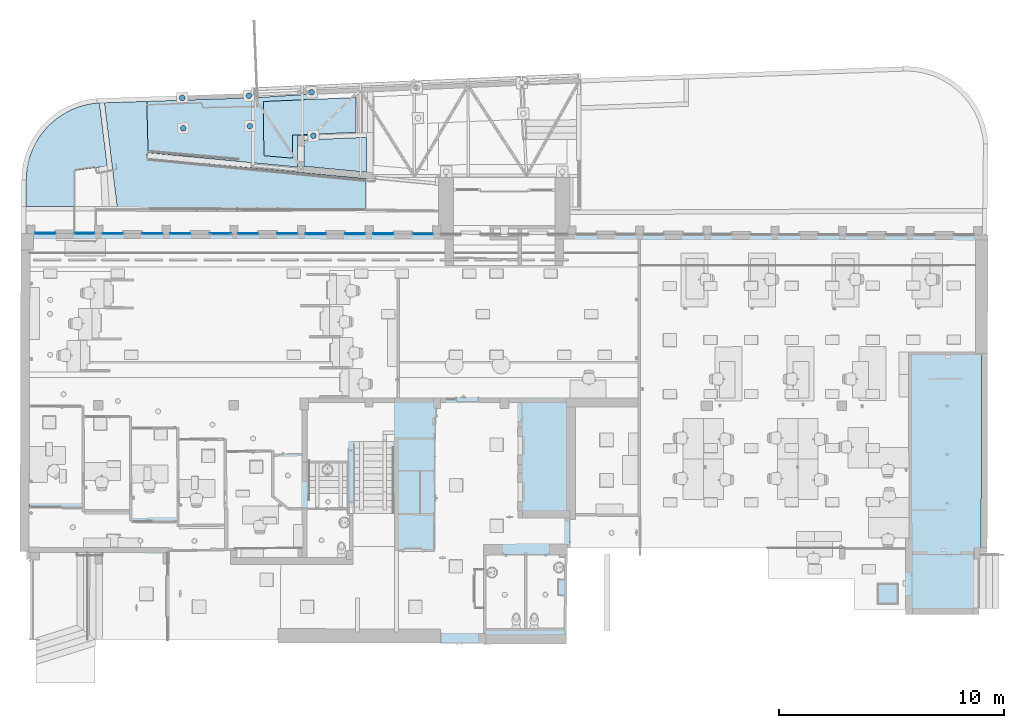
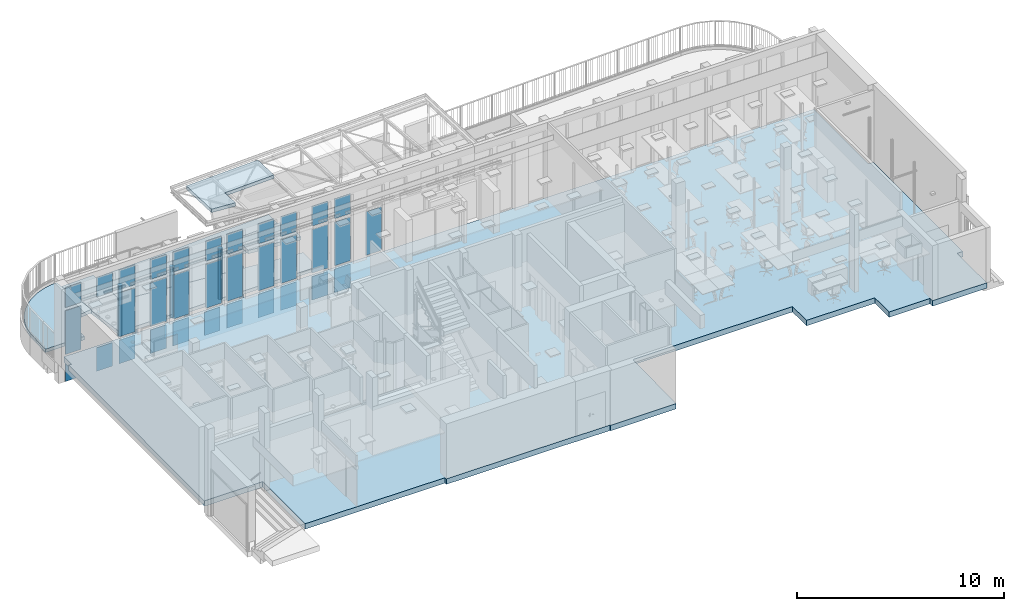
# One storey, part 22 of 128: 33 plates, 12 slabs, 23 elements without a shape of their own.
"""IFC2X3 building model written with IfcOpenShell, lengths in metres."""

from ifc_helpers import new_model, entity, si_unit, converted_unit, derived_unit, direction, frame, frame_2d, origin, origin_2d_with_axis, place, context, subcontext, project, spatial, polyline, circle_curve, parameter, trimmed, segment, composite_curve, rectangle, circle, outline, extrude, clip, halfspace, source, transform, mapped, material, layer, layer_set, layer_usage, type_object, type_shapes, element, aggregate, save


model = new_model("IFC2X3")

# Units and contexts
model_context = context("Model", 3, precision=1e-05, world=origin(), true_north=direction((6.123031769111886e-17, 1.0)))
body_context = subcontext(model_context, "Body", "Model", "MODEL_VIEW")
ifc_project = project(units=[si_unit("LENGTHUNIT", "METRE"), si_unit("AREAUNIT", "SQUARE_METRE"), converted_unit("PLANEANGLEUNIT", "DEGREE", entity("IfcPlaneAngleMeasure", 0.017453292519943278), si_unit("PLANEANGLEUNIT", "RADIAN"), dimensions=[0, 0, 0, 0, 0, 0, 0]), derived_unit("THERMALTRANSMITTANCEUNIT", [(si_unit("MASSUNIT", "GRAM", prefix="KILO"), 1), (si_unit("THERMODYNAMICTEMPERATUREUNIT", "KELVIN"), -1), (si_unit("TIMEUNIT", "SECOND"), -3)])], contexts=[model_context])

# Site, building, storey
site_placement = place(None, origin())
site = spatial("IfcSite", under=ifc_project, at=site_placement, Name="Default", CompositionType="ELEMENT")
building_placement = place(site_placement, origin())
building = spatial("IfcBuilding", under=site, at=building_placement, CompositionType="ELEMENT")
storey_placement = place(building_placement, origin())
storey = spatial("IfcBuildingStorey", under=building, at=storey_placement, Name="00_RDC CAF", CompositionType="ELEMENT", Elevation=2.4982504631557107e-13)

# Curtain wall, plate
curtain_wall_type_1 = type_object("IfcCurtainWallType", Name="Mur-rideau:FRi.Ext.30mm RDC", PredefinedType="NOTDEFINED")
curtain_wall_1_placement = place(storey_placement, origin())
curtain_wall_1 = element("IfcCurtainWall", 1, at=curtain_wall_1_placement, inside=storey, type_object=curtain_wall_type_1, Name="Mur-rideau:FRi.Ext.30mm RDC", ObjectType="Mur-rideau:FRi.Ext.30mm RDC")
ifc_material_1 = material(Name="ARC - M.Ex - Verre")
plate_type_1 = type_object("IfcPlateType", Name="Panneau système:F.Ri.P_Ext_Vitre_30mm", PredefinedType="CURTAIN_PANEL", material=ifc_material_1)
shared_shape_1 = source(origin(), body_context, "Body", "SweptSolid", [
    extrude(rectangle(XDim=0.03, YDim=0.879999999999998, at=frame_2d((0.0, 1.942890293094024e-16), x_axis=(1.0, 0.0))), frame((0.0, 0.0, 0.0), z_axis=(0.0, 0.0, 1.0), x_axis=(0.0, 1.0, 0.0)), (0.0, 0.0, 1.0), 2.578999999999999),
])
type_shapes(plate_type_1, [shared_shape_1])
plate_1_placement = place(curtain_wall_1_placement, frame((10.375999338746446, 144.17785554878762, 0.08999999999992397)))
plate_1 = element("IfcPlate", 2, at=plate_1_placement, type_object=plate_type_1, material=ifc_material_1, Name="Panneau système:F.Ri.P_Ext_Vitre_30mm", ObjectType="Panneau système:F.Ri.P_Ext_Vitre_30mm", context=body_context, shape_type="MappedRepresentation", body=[
    mapped(shared_shape_1, transform((0.0, 0.0, 0.0), scale=1.0)),
])

curtain_wall_2_placement = place(storey_placement, origin())
curtain_wall_2 = element("IfcCurtainWall", 3, at=curtain_wall_2_placement, inside=storey, type_object=curtain_wall_type_1, Name="Mur-rideau:FRi.Ext.30mm RDC", ObjectType="Mur-rideau:FRi.Ext.30mm RDC")
plate_2_placement = place(curtain_wall_2_placement, frame((7.376046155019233, 144.18257356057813, 0.08999999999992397)))
plate_2 = element("IfcPlate", 4, at=plate_2_placement, type_object=plate_type_1, material=ifc_material_1, Name="Panneau système:F.Ri.P_Ext_Vitre_30mm", ObjectType="Panneau système:F.Ri.P_Ext_Vitre_30mm", context=body_context, shape_type="MappedRepresentation", body=[
    mapped(shared_shape_1, transform((0.0, 0.0, 0.0), scale=1.0)),
])

curtain_wall_3_placement = place(storey_placement, origin())
curtain_wall_3 = element("IfcCurtainWall", 5, at=curtain_wall_3_placement, inside=storey, type_object=curtain_wall_type_1, Name="Mur-rideau:FRi.Ext.30mm RDC", ObjectType="Mur-rideau:FRi.Ext.30mm RDC")
plate_3_placement = place(curtain_wall_3_placement, frame((12.122371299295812, 144.17510903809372, 0.08999999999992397)))
plate_3 = element("IfcPlate", 6, at=plate_3_placement, type_object=plate_type_1, material=ifc_material_1, Name="Panneau système:F.Ri.P_Ext_Vitre_30mm", ObjectType="Panneau système:F.Ri.P_Ext_Vitre_30mm", context=body_context, shape_type="MappedRepresentation", body=[
    mapped(shared_shape_1, transform((0.0, 0.0, 0.0), scale=1.0)),
])

curtain_wall_4_placement = place(storey_placement, origin())
curtain_wall_4 = element("IfcCurtainWall", 7, at=curtain_wall_4_placement, inside=storey, type_object=curtain_wall_type_1, Name="Mur-rideau:FRi.Ext.30mm RDC", ObjectType="Mur-rideau:FRi.Ext.30mm RDC")
plate_4_placement = place(curtain_wall_4_placement, frame((13.376032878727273, 144.17313741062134, 0.08999999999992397)))
plate_4 = element("IfcPlate", 8, at=plate_4_placement, type_object=plate_type_1, material=ifc_material_1, Name="Panneau système:F.Ri.P_Ext_Vitre_30mm", ObjectType="Panneau système:F.Ri.P_Ext_Vitre_30mm", context=body_context, shape_type="MappedRepresentation", body=[
    mapped(shared_shape_1, transform((0.0, 0.0, 0.0), scale=1.0)),
])

curtain_wall_5_placement = place(storey_placement, origin())
curtain_wall_5 = element("IfcCurtainWall", 9, at=curtain_wall_5_placement, inside=storey, type_object=curtain_wall_type_1, Name="Mur-rideau:FRi.Ext.30mm RDC", ObjectType="Mur-rideau:FRi.Ext.30mm RDC")
plate_5_placement = place(curtain_wall_5_placement, frame((15.197702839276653, 144.17039089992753, 0.08999999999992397)))
plate_5 = element("IfcPlate", 10, at=plate_5_placement, type_object=plate_type_1, material=ifc_material_1, Name="Panneau système:F.Ri.P_Ext_Vitre_30mm", ObjectType="Panneau système:F.Ri.P_Ext_Vitre_30mm", context=body_context, shape_type="MappedRepresentation", body=[
    mapped(shared_shape_1, transform((0.0, 0.0, 0.0), scale=1.0)),
])

curtain_wall_6_placement = place(storey_placement, origin())
curtain_wall_6 = element("IfcCurtainWall", 11, at=curtain_wall_6_placement, inside=storey, type_object=curtain_wall_type_1, Name="Mur-rideau:FRi.Ext.30mm RDC", ObjectType="Mur-rideau:FRi.Ext.30mm RDC")
plate_6_placement = place(curtain_wall_6_placement, frame((16.376026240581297, 144.16841933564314, 0.08999999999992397)))
plate_6 = element("IfcPlate", 12, at=plate_6_placement, type_object=plate_type_1, material=ifc_material_1, Name="Panneau système:F.Ri.P_Ext_Vitre_30mm", ObjectType="Panneau système:F.Ri.P_Ext_Vitre_30mm", context=body_context, shape_type="MappedRepresentation", body=[
    mapped(shared_shape_1, transform((0.0, 0.0, 0.0), scale=1.0)),
])

curtain_wall_7_placement = place(storey_placement, origin())
curtain_wall_7 = element("IfcCurtainWall", 13, at=curtain_wall_7_placement, inside=storey, type_object=curtain_wall_type_1, Name="Mur-rideau:FRi.Ext.30mm RDC", ObjectType="Mur-rideau:FRi.Ext.30mm RDC")
plate_7_placement = place(curtain_wall_7_placement, frame((18.122398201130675, 144.16567282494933, 0.08999999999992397)))
plate_7 = element("IfcPlate", 14, at=plate_7_placement, type_object=plate_type_1, material=ifc_material_1, Name="Panneau système:F.Ri.P_Ext_Vitre_30mm", ObjectType="Panneau système:F.Ri.P_Ext_Vitre_30mm", context=body_context, shape_type="MappedRepresentation", body=[
    mapped(shared_shape_1, transform((0.0, 0.0, 0.0), scale=1.0)),
])

curtain_wall_8_placement = place(storey_placement, origin())
curtain_wall_8 = element("IfcCurtainWall", 15, at=curtain_wall_8_placement, inside=storey, type_object=curtain_wall_type_1, Name="Mur-rideau:FRi.Ext.30mm RDC", ObjectType="Mur-rideau:FRi.Ext.30mm RDC")
plate_8_placement = place(curtain_wall_8_placement, frame((19.37601960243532, 144.16370126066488, 0.08999999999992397)))
plate_8 = element("IfcPlate", 16, at=plate_8_placement, type_object=plate_type_1, material=ifc_material_1, Name="Panneau système:F.Ri.P_Ext_Vitre_30mm", ObjectType="Panneau système:F.Ri.P_Ext_Vitre_30mm", context=body_context, shape_type="MappedRepresentation", body=[
    mapped(shared_shape_1, transform((0.0, 0.0, 0.0), scale=1.0)),
])

curtain_wall_9_placement = place(storey_placement, origin())
curtain_wall_9 = element("IfcCurtainWall", 17, at=curtain_wall_9_placement, inside=storey, type_object=curtain_wall_type_1, Name="Mur-rideau:FRi.Ext.30mm RDC", ObjectType="Mur-rideau:FRi.Ext.30mm RDC")
plate_9_placement = place(curtain_wall_9_placement, frame((21.122391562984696, 144.16095474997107, 0.08999999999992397)))
plate_9 = element("IfcPlate", 18, at=plate_9_placement, type_object=plate_type_1, material=ifc_material_1, Name="Panneau système:F.Ri.P_Ext_Vitre_30mm", ObjectType="Panneau système:F.Ri.P_Ext_Vitre_30mm", context=body_context, shape_type="MappedRepresentation", body=[
    mapped(shared_shape_1, transform((0.0, 0.0, 0.0), scale=1.0)),
])

curtain_wall_10_placement = place(storey_placement, origin())
curtain_wall_10 = element("IfcCurtainWall", 19, at=curtain_wall_10_placement, inside=storey, type_object=curtain_wall_type_1, Name="Mur-rideau:FRi.Ext.30mm RDC", ObjectType="Mur-rideau:FRi.Ext.30mm RDC")
plate_10_placement = place(curtain_wall_10_placement, frame((22.376012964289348, 144.15898318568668, 0.08999999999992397)))
plate_10 = element("IfcPlate", 20, at=plate_10_placement, type_object=plate_type_1, material=ifc_material_1, Name="Panneau système:F.Ri.P_Ext_Vitre_30mm", ObjectType="Panneau système:F.Ri.P_Ext_Vitre_30mm", context=body_context, shape_type="MappedRepresentation", body=[
    mapped(shared_shape_1, transform((0.0, 0.0, 0.0), scale=1.0)),
])

curtain_wall_11_placement = place(storey_placement, origin())
curtain_wall_11 = element("IfcCurtainWall", 21, at=curtain_wall_11_placement, inside=storey, type_object=curtain_wall_type_1, Name="Mur-rideau:FRi.Ext.30mm RDC", ObjectType="Mur-rideau:FRi.Ext.30mm RDC")
plate_11_placement = place(curtain_wall_11_placement, frame((24.12238492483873, 144.15623667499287, 0.08999999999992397)))
plate_11 = element("IfcPlate", 22, at=plate_11_placement, type_object=plate_type_1, material=ifc_material_1, Name="Panneau système:F.Ri.P_Ext_Vitre_30mm", ObjectType="Panneau système:F.Ri.P_Ext_Vitre_30mm", context=body_context, shape_type="MappedRepresentation", body=[
    mapped(shared_shape_1, transform((0.0, 0.0, 0.0), scale=1.0)),
])
aggregate(curtain_wall_11, [plate_11])

# Plate
plate_type_2 = type_object("IfcPlateType", Name="Panneau système:F.Ri.P_Ext_Vitre_30mm", PredefinedType="CURTAIN_PANEL", material=ifc_material_1)
shared_shape_2 = source(origin(), body_context, "Body", "SweptSolid", [
    extrude(rectangle(XDim=0.03, YDim=0.879999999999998, at=frame_2d((0.0, 1.942890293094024e-16), x_axis=(1.0, 0.0))), frame((0.0, 0.0, 0.0), z_axis=(0.0, 0.0, 1.0), x_axis=(0.0, 1.0, 0.0)), (0.0, 0.0, 1.0), 1.1689999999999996),
])
type_shapes(plate_type_2, [shared_shape_2])
plate_12_placement = place(curtain_wall_1_placement, frame((10.375999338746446, 144.17785554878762, 2.8689999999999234)))
plate_12 = element("IfcPlate", 23, at=plate_12_placement, type_object=plate_type_2, material=ifc_material_1, Name="Panneau système:F.Ri.P_Ext_Vitre_30mm", ObjectType="Panneau système:F.Ri.P_Ext_Vitre_30mm", context=body_context, shape_type="MappedRepresentation", body=[
    mapped(shared_shape_2, transform((0.0, 0.0, 0.0), scale=1.0)),
])

aggregate(curtain_wall_1, [plate_1, plate_12])

# Curtain wall, plate
curtain_wall_12_placement = place(storey_placement, origin())
curtain_wall_12 = element("IfcCurtainWall", 24, at=curtain_wall_12_placement, inside=storey, type_object=curtain_wall_type_1, Name="Mur-rideau:FRi.Ext.30mm RDC", ObjectType="Mur-rideau:FRi.Ext.30mm RDC")
plate_13_placement = place(curtain_wall_12_placement, frame((9.122418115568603, 144.17982704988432, 2.8689999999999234)))
plate_13 = element("IfcPlate", 25, at=plate_13_placement, type_object=plate_type_2, material=ifc_material_1, Name="Panneau système:F.Ri.P_Ext_Vitre_30mm", ObjectType="Panneau système:F.Ri.P_Ext_Vitre_30mm", context=body_context, shape_type="MappedRepresentation", body=[
    mapped(shared_shape_2, transform((0.0, 0.0, 0.0), scale=1.0)),
])
aggregate(curtain_wall_12, [plate_13])

# Plate
plate_14_placement = place(curtain_wall_2_placement, frame((7.376046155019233, 144.18257356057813, 2.8689999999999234)))
plate_14 = element("IfcPlate", 26, at=plate_14_placement, type_object=plate_type_2, material=ifc_material_1, Name="Panneau système:F.Ri.P_Ext_Vitre_30mm", ObjectType="Panneau système:F.Ri.P_Ext_Vitre_30mm", context=body_context, shape_type="MappedRepresentation", body=[
    mapped(shared_shape_2, transform((0.0, 0.0, 0.0), scale=1.0)),
])

aggregate(curtain_wall_2, [plate_2, plate_14])

plate_15_placement = place(curtain_wall_3_placement, frame((12.122371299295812, 144.17510903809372, 2.8689999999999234)))
plate_15 = element("IfcPlate", 27, at=plate_15_placement, type_object=plate_type_2, material=ifc_material_1, Name="Panneau système:F.Ri.P_Ext_Vitre_30mm", ObjectType="Panneau système:F.Ri.P_Ext_Vitre_30mm", context=body_context, shape_type="MappedRepresentation", body=[
    mapped(shared_shape_2, transform((0.0, 0.0, 0.0), scale=1.0)),
])

aggregate(curtain_wall_3, [plate_3, plate_15])

plate_16_placement = place(curtain_wall_4_placement, frame((13.376032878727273, 144.17313741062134, 2.8689999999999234)))
plate_16 = element("IfcPlate", 28, at=plate_16_placement, type_object=plate_type_2, material=ifc_material_1, Name="Panneau système:F.Ri.P_Ext_Vitre_30mm", ObjectType="Panneau système:F.Ri.P_Ext_Vitre_30mm", context=body_context, shape_type="MappedRepresentation", body=[
    mapped(shared_shape_2, transform((0.0, 0.0, 0.0), scale=1.0)),
])

aggregate(curtain_wall_4, [plate_4, plate_16])

plate_17_placement = place(curtain_wall_5_placement, frame((15.197702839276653, 144.17039089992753, 2.8689999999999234)))
plate_17 = element("IfcPlate", 29, at=plate_17_placement, type_object=plate_type_2, material=ifc_material_1, Name="Panneau système:F.Ri.P_Ext_Vitre_30mm", ObjectType="Panneau système:F.Ri.P_Ext_Vitre_30mm", context=body_context, shape_type="MappedRepresentation", body=[
    mapped(shared_shape_2, transform((0.0, 0.0, 0.0), scale=1.0)),
])

aggregate(curtain_wall_5, [plate_5, plate_17])

plate_18_placement = place(curtain_wall_6_placement, frame((16.376026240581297, 144.16841933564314, 2.8689999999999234)))
plate_18 = element("IfcPlate", 30, at=plate_18_placement, type_object=plate_type_2, material=ifc_material_1, Name="Panneau système:F.Ri.P_Ext_Vitre_30mm", ObjectType="Panneau système:F.Ri.P_Ext_Vitre_30mm", context=body_context, shape_type="MappedRepresentation", body=[
    mapped(shared_shape_2, transform((0.0, 0.0, 0.0), scale=1.0)),
])

aggregate(curtain_wall_6, [plate_6, plate_18])

plate_19_placement = place(curtain_wall_7_placement, frame((18.122398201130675, 144.16567282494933, 2.8689999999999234)))
plate_19 = element("IfcPlate", 31, at=plate_19_placement, type_object=plate_type_2, material=ifc_material_1, Name="Panneau système:F.Ri.P_Ext_Vitre_30mm", ObjectType="Panneau système:F.Ri.P_Ext_Vitre_30mm", context=body_context, shape_type="MappedRepresentation", body=[
    mapped(shared_shape_2, transform((0.0, 0.0, 0.0), scale=1.0)),
])

aggregate(curtain_wall_7, [plate_7, plate_19])

plate_20_placement = place(curtain_wall_8_placement, frame((19.37601960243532, 144.16370126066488, 2.8689999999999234)))
plate_20 = element("IfcPlate", 32, at=plate_20_placement, type_object=plate_type_2, material=ifc_material_1, Name="Panneau système:F.Ri.P_Ext_Vitre_30mm", ObjectType="Panneau système:F.Ri.P_Ext_Vitre_30mm", context=body_context, shape_type="MappedRepresentation", body=[
    mapped(shared_shape_2, transform((0.0, 0.0, 0.0), scale=1.0)),
])

aggregate(curtain_wall_8, [plate_8, plate_20])

plate_21_placement = place(curtain_wall_9_placement, frame((21.122391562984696, 144.16095474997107, 2.8689999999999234)))
plate_21 = element("IfcPlate", 33, at=plate_21_placement, type_object=plate_type_2, material=ifc_material_1, Name="Panneau système:F.Ri.P_Ext_Vitre_30mm", ObjectType="Panneau système:F.Ri.P_Ext_Vitre_30mm", context=body_context, shape_type="MappedRepresentation", body=[
    mapped(shared_shape_2, transform((0.0, 0.0, 0.0), scale=1.0)),
])

aggregate(curtain_wall_9, [plate_9, plate_21])

plate_22_placement = place(curtain_wall_10_placement, frame((22.376012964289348, 144.15898318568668, 2.8689999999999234)))
plate_22 = element("IfcPlate", 34, at=plate_22_placement, type_object=plate_type_2, material=ifc_material_1, Name="Panneau système:F.Ri.P_Ext_Vitre_30mm", ObjectType="Panneau système:F.Ri.P_Ext_Vitre_30mm", context=body_context, shape_type="MappedRepresentation", body=[
    mapped(shared_shape_2, transform((0.0, 0.0, 0.0), scale=1.0)),
])

aggregate(curtain_wall_10, [plate_10, plate_22])

# Slab
ifc_material_2 = material(Name="STR - Beton")
ifc_layer_1 = layer(ifc_material_2, 0.32)
ifc_layer_set_1 = layer_set([ifc_layer_1], Name="Sol:S_Beton_Bac acier_200+120 mm Variable")
ifc_layer_usage_1 = layer_usage(ifc_layer_set_1, "AXIS3", "POSITIVE", 0.0)
slab_type_1 = type_object("IfcSlabType", Name="Sol:S_Beton_Bac acier_200+120 mm Variable", PredefinedType="FLOOR", material=ifc_layer_set_1)
slab_1_placement = place(storey_placement, origin())
element("IfcSlab", 35, at=slab_1_placement, inside=storey, type_object=slab_type_1, material=ifc_layer_usage_1, Name="Sol:S_Beton_Bac acier_200+120 mm Variable", ObjectType="Sol:S_Beton_Bac acier_200+120 mm Variable", PredefinedType="FLOOR", context=body_context, shape_type="SweptSolid", body=[
    extrude(outline(polyline([(-13.010530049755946, 18.021991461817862), (-12.984069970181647, -23.77674524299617), (-12.249944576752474, -23.777253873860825), (-12.250048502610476, -23.92725383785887), (0.9310459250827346, -23.93638621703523), (0.9313394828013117, -20.68839548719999), (5.023780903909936, -20.67936865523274), (5.026101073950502, -12.881731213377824), (5.146262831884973, -12.881766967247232), (5.137759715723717, -5.678291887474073), (5.151348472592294, -5.6782619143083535), (5.156442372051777, -3.758977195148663), (5.192754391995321, -3.758684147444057), (5.163172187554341, -0.09310485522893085), (0.9170992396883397, -0.05070033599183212), (0.8879241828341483, 8.846122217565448), (2.2381413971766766, 8.86214126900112), (2.2297535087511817, 12.66490863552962), (3.6098563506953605, 12.667952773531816), (3.5979002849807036, 14.95163131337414), (3.830504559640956, 14.952144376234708), (3.8238101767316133, 17.987137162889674), (0.959454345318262, 17.986918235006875), (0.958759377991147, 18.301991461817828), (-7.7093088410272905, 18.301991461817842), (-7.7093088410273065, 18.021991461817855), (-13.010530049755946, 18.021991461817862)])), frame((30.599632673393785, 131.13191495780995, 0.0), z_axis=(0.0, 0.0, 1.0), x_axis=(-0.0022057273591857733, -0.9999975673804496, 0.0)), (0.0, 0.0, -1.0), 0.32),
])

# Curtain wall, plate
curtain_wall_type_2 = type_object("IfcCurtainWallType", Name="Mur-rideau:FRi.Ext.30mm Etages", PredefinedType="NOTDEFINED")
curtain_wall_13_placement = place(storey_placement, origin())
curtain_wall_13 = element("IfcCurtainWall", 36, at=curtain_wall_13_placement, inside=storey, type_object=curtain_wall_type_2, Name="Mur-rideau:FRi.Ext.30mm Etages", ObjectType="Mur-rideau:FRi.Ext.30mm Etages")
ifc_material_3 = material(Name="ARC - M.Ex - Bleu Foncé")
plate_type_3 = type_object("IfcPlateType", Name="Panneau système:F.Ri.P_Ext_Plein_30mm_Bleu foncé", PredefinedType="CURTAIN_PANEL", material=ifc_material_3)
shared_shape_3 = source(origin(), body_context, "Body", "SweptSolid", [
    extrude(rectangle(XDim=0.03, YDim=0.8800000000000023, at=frame_2d((0.0, 7.494005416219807e-16), x_axis=(1.0, 0.0))), frame((0.0, 0.0, 0.0), z_axis=(0.0, 0.0, 1.0), x_axis=(0.0, 1.0, 0.0)), (0.0, 0.0, 1.0), 1.3879999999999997),
])
type_shapes(plate_type_3, [shared_shape_3])
plate_23_placement = place(curtain_wall_13_placement, frame((10.375999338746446, 144.17785554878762, -1.500000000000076)))
plate_23 = element("IfcPlate", 37, at=plate_23_placement, type_object=plate_type_3, material=ifc_material_3, Name="Panneau système:F.Ri.P_Ext_Plein_30mm_Bleu foncé", ObjectType="Panneau système:F.Ri.P_Ext_Plein_30mm_Bleu foncé", context=body_context, shape_type="MappedRepresentation", body=[
    mapped(shared_shape_3, transform((0.0, 0.0, 0.0), scale=1.0)),
])
aggregate(curtain_wall_13, [plate_23])

curtain_wall_14_placement = place(storey_placement, origin())
curtain_wall_14 = element("IfcCurtainWall", 38, at=curtain_wall_14_placement, inside=storey, type_object=curtain_wall_type_2, Name="Mur-rideau:FRi.Ext.30mm Etages", ObjectType="Mur-rideau:FRi.Ext.30mm Etages")
plate_24_placement = place(curtain_wall_14_placement, frame((7.3760461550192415, 144.18257356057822, -1.500000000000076)))
plate_24 = element("IfcPlate", 39, at=plate_24_placement, type_object=plate_type_3, material=ifc_material_3, Name="Panneau système:F.Ri.P_Ext_Plein_30mm_Bleu foncé", ObjectType="Panneau système:F.Ri.P_Ext_Plein_30mm_Bleu foncé", context=body_context, shape_type="MappedRepresentation", body=[
    mapped(shared_shape_3, transform((0.0, 0.0, 0.0), scale=1.0)),
])
aggregate(curtain_wall_14, [plate_24])

curtain_wall_15_placement = place(storey_placement, origin())
curtain_wall_15 = element("IfcCurtainWall", 40, at=curtain_wall_15_placement, inside=storey, type_object=curtain_wall_type_2, Name="Mur-rideau:FRi.Ext.30mm Etages", ObjectType="Mur-rideau:FRi.Ext.30mm Etages")
plate_25_placement = place(curtain_wall_15_placement, frame((13.376032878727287, 144.17313741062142, -1.500000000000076)))
plate_25 = element("IfcPlate", 41, at=plate_25_placement, type_object=plate_type_3, material=ifc_material_3, Name="Panneau système:F.Ri.P_Ext_Plein_30mm_Bleu foncé", ObjectType="Panneau système:F.Ri.P_Ext_Plein_30mm_Bleu foncé", context=body_context, shape_type="MappedRepresentation", body=[
    mapped(shared_shape_3, transform((0.0, 0.0, 0.0), scale=1.0)),
])
aggregate(curtain_wall_15, [plate_25])

curtain_wall_16_placement = place(storey_placement, origin())
curtain_wall_16 = element("IfcCurtainWall", 42, at=curtain_wall_16_placement, inside=storey, type_object=curtain_wall_type_2, Name="Mur-rideau:FRi.Ext.30mm Etages", ObjectType="Mur-rideau:FRi.Ext.30mm Etages")
plate_26_placement = place(curtain_wall_16_placement, frame((16.376026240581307, 144.16841933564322, -1.500000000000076)))
plate_26 = element("IfcPlate", 43, at=plate_26_placement, type_object=plate_type_3, material=ifc_material_3, Name="Panneau système:F.Ri.P_Ext_Plein_30mm_Bleu foncé", ObjectType="Panneau système:F.Ri.P_Ext_Plein_30mm_Bleu foncé", context=body_context, shape_type="MappedRepresentation", body=[
    mapped(shared_shape_3, transform((0.0, 0.0, 0.0), scale=1.0)),
])
aggregate(curtain_wall_16, [plate_26])

curtain_wall_17_placement = place(storey_placement, origin())
curtain_wall_17 = element("IfcCurtainWall", 44, at=curtain_wall_17_placement, inside=storey, type_object=curtain_wall_type_2, Name="Mur-rideau:FRi.Ext.30mm Etages", ObjectType="Mur-rideau:FRi.Ext.30mm Etages")
plate_27_placement = place(curtain_wall_17_placement, frame((19.37601960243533, 144.16370126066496, -1.500000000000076)))
plate_27 = element("IfcPlate", 45, at=plate_27_placement, type_object=plate_type_3, material=ifc_material_3, Name="Panneau système:F.Ri.P_Ext_Plein_30mm_Bleu foncé", ObjectType="Panneau système:F.Ri.P_Ext_Plein_30mm_Bleu foncé", context=body_context, shape_type="MappedRepresentation", body=[
    mapped(shared_shape_3, transform((0.0, 0.0, 0.0), scale=1.0)),
])
aggregate(curtain_wall_17, [plate_27])

curtain_wall_18_placement = place(storey_placement, origin())
curtain_wall_18 = element("IfcCurtainWall", 46, at=curtain_wall_18_placement, inside=storey, type_object=curtain_wall_type_2, Name="Mur-rideau:FRi.Ext.30mm Etages", ObjectType="Mur-rideau:FRi.Ext.30mm Etages")
plate_28_placement = place(curtain_wall_18_placement, frame((22.37601296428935, 144.15898318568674, -1.500000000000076)))
plate_28 = element("IfcPlate", 47, at=plate_28_placement, type_object=plate_type_3, material=ifc_material_3, Name="Panneau système:F.Ri.P_Ext_Plein_30mm_Bleu foncé", ObjectType="Panneau système:F.Ri.P_Ext_Plein_30mm_Bleu foncé", context=body_context, shape_type="MappedRepresentation", body=[
    mapped(shared_shape_3, transform((0.0, 0.0, 0.0), scale=1.0)),
])
aggregate(curtain_wall_18, [plate_28])

curtain_wall_19_placement = place(storey_placement, origin())
curtain_wall_19 = element("IfcCurtainWall", 48, at=curtain_wall_19_placement, inside=storey, type_object=curtain_wall_type_2, Name="Mur-rideau:FRi.Ext.30mm Etages", ObjectType="Mur-rideau:FRi.Ext.30mm Etages")
plate_type_4 = type_object("IfcPlateType", Name="Panneau système:F.Ri.P_Ext_Plein_30mm_Bleu foncé", PredefinedType="CURTAIN_PANEL", material=ifc_material_3)
shared_shape_4 = source(origin(), body_context, "Body", "SweptSolid", [
    extrude(rectangle(XDim=0.03, YDim=0.8800000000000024, at=frame_2d((0.0, 6.661338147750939e-16), x_axis=(1.0, 0.0))), frame((0.0, 0.0, 0.0), z_axis=(0.0, 0.0, 1.0), x_axis=(0.0, 1.0, 0.0)), (0.0, 0.0, 1.0), 1.3879999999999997),
])
type_shapes(plate_type_4, [shared_shape_4])
plate_29_placement = place(curtain_wall_19_placement, frame((12.12234541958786, 144.17510907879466, -1.500000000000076), z_axis=(0.0, 0.0, 1.0), x_axis=(-1.0, 0.0, 0.0)))
plate_29 = element("IfcPlate", 49, at=plate_29_placement, type_object=plate_type_4, material=ifc_material_3, Name="Panneau système:F.Ri.P_Ext_Plein_30mm_Bleu foncé", ObjectType="Panneau système:F.Ri.P_Ext_Plein_30mm_Bleu foncé", context=body_context, shape_type="MappedRepresentation", body=[
    mapped(shared_shape_4, transform((0.0, 0.0, 0.0), scale=1.0)),
])
aggregate(curtain_wall_19, [plate_29])

curtain_wall_20_placement = place(storey_placement, origin())
curtain_wall_20 = element("IfcCurtainWall", 50, at=curtain_wall_20_placement, inside=storey, type_object=curtain_wall_type_2, Name="Mur-rideau:FRi.Ext.30mm Etages", ObjectType="Mur-rideau:FRi.Ext.30mm Etages")
plate_30_placement = place(curtain_wall_20_placement, frame((9.122392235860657, 144.17982709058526, -1.500000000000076), z_axis=(0.0, 0.0, 1.0), x_axis=(-1.0, 0.0, 0.0)))
plate_30 = element("IfcPlate", 51, at=plate_30_placement, type_object=plate_type_4, material=ifc_material_3, Name="Panneau système:F.Ri.P_Ext_Plein_30mm_Bleu foncé", ObjectType="Panneau système:F.Ri.P_Ext_Plein_30mm_Bleu foncé", context=body_context, shape_type="MappedRepresentation", body=[
    mapped(shared_shape_4, transform((0.0, 0.0, 0.0), scale=1.0)),
])
aggregate(curtain_wall_20, [plate_30])

curtain_wall_21_placement = place(storey_placement, origin())
curtain_wall_21 = element("IfcCurtainWall", 52, at=curtain_wall_21_placement, inside=storey, type_object=curtain_wall_type_2, Name="Mur-rideau:FRi.Ext.30mm Etages", ObjectType="Mur-rideau:FRi.Ext.30mm Etages")
plate_31_placement = place(curtain_wall_21_placement, frame((15.122378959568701, 144.17039094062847, -1.500000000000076), z_axis=(0.0, 0.0, 1.0), x_axis=(-1.0, 0.0, 0.0)))
plate_31 = element("IfcPlate", 53, at=plate_31_placement, type_object=plate_type_4, material=ifc_material_3, Name="Panneau système:F.Ri.P_Ext_Plein_30mm_Bleu foncé", ObjectType="Panneau système:F.Ri.P_Ext_Plein_30mm_Bleu foncé", context=body_context, shape_type="MappedRepresentation", body=[
    mapped(shared_shape_4, transform((0.0, 0.0, 0.0), scale=1.0)),
])
aggregate(curtain_wall_21, [plate_31])

curtain_wall_22_placement = place(storey_placement, origin())
curtain_wall_22 = element("IfcCurtainWall", 54, at=curtain_wall_22_placement, inside=storey, type_object=curtain_wall_type_2, Name="Mur-rideau:FRi.Ext.30mm Etages", ObjectType="Mur-rideau:FRi.Ext.30mm Etages")
plate_32_placement = place(curtain_wall_22_placement, frame((18.12237232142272, 144.16567286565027, -1.500000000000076), z_axis=(0.0, 0.0, 1.0), x_axis=(-1.0, 0.0, 0.0)))
plate_32 = element("IfcPlate", 55, at=plate_32_placement, type_object=plate_type_4, material=ifc_material_3, Name="Panneau système:F.Ri.P_Ext_Plein_30mm_Bleu foncé", ObjectType="Panneau système:F.Ri.P_Ext_Plein_30mm_Bleu foncé", context=body_context, shape_type="MappedRepresentation", body=[
    mapped(shared_shape_4, transform((0.0, 0.0, 0.0), scale=1.0)),
])
aggregate(curtain_wall_22, [plate_32])

curtain_wall_23_placement = place(storey_placement, origin())
curtain_wall_23 = element("IfcCurtainWall", 56, at=curtain_wall_23_placement, inside=storey, type_object=curtain_wall_type_2, Name="Mur-rideau:FRi.Ext.30mm Etages", ObjectType="Mur-rideau:FRi.Ext.30mm Etages")
plate_33_placement = place(curtain_wall_23_placement, frame((21.122365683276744, 144.160954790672, -1.500000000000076), z_axis=(0.0, 0.0, 1.0), x_axis=(-1.0, 0.0, 0.0)))
plate_33 = element("IfcPlate", 57, at=plate_33_placement, type_object=plate_type_4, material=ifc_material_3, Name="Panneau système:F.Ri.P_Ext_Plein_30mm_Bleu foncé", ObjectType="Panneau système:F.Ri.P_Ext_Plein_30mm_Bleu foncé", context=body_context, shape_type="MappedRepresentation", body=[
    mapped(shared_shape_4, transform((0.0, 0.0, 0.0), scale=1.0)),
])
aggregate(curtain_wall_23, [plate_33])

# Slabs
ifc_layer_2 = layer(ifc_material_2, 0.2)
ifc_layer_set_2 = layer_set([ifc_layer_2], Name="Sol:Vo_Dalle_Beton_200mm")
ifc_layer_usage_2 = layer_usage(ifc_layer_set_2, "AXIS3", "POSITIVE", 0.0)
slab_type_2 = type_object("IfcSlabType", Name="Sol:Vo_Dalle_Beton_200mm", PredefinedType="FLOOR", material=ifc_layer_set_2)
slab_2_placement = place(storey_placement, origin())
element("IfcSlab", 58, at=slab_2_placement, inside=storey, type_object=slab_type_2, material=ifc_layer_usage_2, Name="Sol:Vo_Dalle_Beton_200mm", ObjectType="Sol:Vo_Dalle_Beton_200mm", PredefinedType="FLOOR", context=body_context, shape_type="SweptSolid", body=[
    extrude(outline(polyline([(0.9053093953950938, -7.683495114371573), (2.2961452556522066, -7.683495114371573), (2.248237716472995, 3.3409681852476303), (-2.4533832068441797, 3.9167638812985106), (-2.516625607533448, 2.0396954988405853), (-0.22939715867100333, 1.9792181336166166), (-0.234654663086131, 2.0348166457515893), (-0.015631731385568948, 2.0555278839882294), (0.9053093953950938, -7.683495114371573)])), frame((13.92354946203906, 147.51599033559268, -0.49999999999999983), z_axis=(0.0, 0.0, -1.0), x_axis=(0.0, -1.0, 0.0)), (0.0, 0.0, 1.0), 0.2),
])
ifc_layer_3 = layer(ifc_material_2, 0.14999999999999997)
ifc_material_4 = material(Name="Terre")
ifc_layer_4 = layer(ifc_material_4, 0.14999999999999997)
ifc_layer_set_3 = layer_set([ifc_layer_3, ifc_layer_4], Name="Sol:Vo_Dalle_Beton_150mm")
ifc_layer_usage_3 = layer_usage(ifc_layer_set_3, "AXIS3", "POSITIVE", 0.0)
slab_type_3 = type_object("IfcSlabType", Name="Sol:Vo_Dalle_Beton_150mm", PredefinedType="FLOOR", material=ifc_layer_set_3)
slab_3_placement = place(storey_placement, origin())
element("IfcSlab", 59, at=slab_3_placement, inside=storey, type_object=slab_type_3, material=ifc_layer_usage_3, Name="Sol:Vo_Dalle_Beton_150mm", ObjectType="Sol:Vo_Dalle_Beton_150mm", PredefinedType="FLOOR", context=body_context, shape_type="SweptSolid", body=[
    extrude(outline(polyline([(-0.7640681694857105, -1.117156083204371), (1.10860234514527, -1.1171560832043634), (4.485817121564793, -1.0448871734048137), (4.375464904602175, 0.7597363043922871), (1.0288355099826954, 0.6885725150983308), (0.9457597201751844, 2.074600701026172), (-5.633740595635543, 1.0209504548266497), (-5.546670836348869, -1.2646606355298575), (-0.7640681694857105, -1.117156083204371)])), frame((17.500535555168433, 149.1274032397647, -0.695), z_axis=(0.0, 0.0, -1.0), x_axis=(0.9979198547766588, 0.06446676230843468, 0.0)), (0.0, 0.0, 1.0), 0.2999999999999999),
])
ifc_material_5 = material(Name="SITE - Herbe")
ifc_layer_5 = layer(ifc_material_5, 0.2)
ifc_layer_set_4 = layer_set([ifc_layer_5], Name="Sol:S_Sol_vegetalise_200 mm")
ifc_layer_usage_4 = layer_usage(ifc_layer_set_4, "AXIS3", "POSITIVE", 0.0)
slab_type_4 = type_object("IfcSlabType", Name="Sol:S_Sol_vegetalise_200 mm", PredefinedType="FLOOR", material=ifc_layer_set_4)
slab_4_placement = place(storey_placement, origin())
element("IfcSlab", 60, at=slab_4_placement, inside=storey, type_object=slab_type_4, material=ifc_layer_usage_4, Name="Sol:S_Sol_vegetalise_200 mm", ObjectType="Sol:S_Sol_vegetalise_200 mm", PredefinedType="FLOOR", context=body_context, shape_type="SweptSolid", body=[
    extrude(outline(composite_curve([segment(polyline([(-2.8765553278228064, -1.7530107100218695), (-0.05636504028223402, -1.7530107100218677)]), True, "CONTINUOUS"), segment(polyline([(-0.05636504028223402, -1.7530107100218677), (-0.030724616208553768, -0.3099057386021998)]), True, "CONTINUOUS"), segment(polyline([(-0.030724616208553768, -0.3099057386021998), (1.5574888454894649, -0.11540122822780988)]), True, "CONTINUOUS"), segment(polyline([(1.5574888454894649, -0.11540122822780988), (1.2878996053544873, 2.0452463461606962)]), True, "CONTINUOUS"), segment(polyline([(1.2878996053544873, 2.0452463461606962), (0.11825653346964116, 1.8860820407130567)]), True, "CONTINUOUS"), segment(trimmed(circle_curve(frame_2d((0.5481641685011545, -1.5195578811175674), x_axis=(-0.12524011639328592, 0.9921264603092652)), 3.432667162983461), [parameter(0.0)], [parameter(86.70502582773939)], True, "PARAMETER"), True, "CONTINUOUS")], self_intersect=False)), frame((8.395369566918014, 146.89643124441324, -0.17), z_axis=(0.0, 0.0, -1.0), x_axis=(0.12155928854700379, -0.9925841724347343, 0.0)), (0.0, 0.0, 1.0), 0.20000000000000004),
])
ifc_layer_usage_5 = layer_usage(ifc_layer_set_4, "AXIS3", "POSITIVE", 0.0)
slab_5_placement = place(storey_placement, origin())
element("IfcSlab", 61, at=slab_5_placement, inside=storey, type_object=slab_type_4, material=ifc_layer_usage_5, Name="Sol:S_Sol_vegetalise_200 mm", ObjectType="Sol:S_Sol_vegetalise_200 mm", PredefinedType="FLOOR", context=body_context, shape_type="SweptSolid", body=[
    extrude(outline(polyline([(-0.7348915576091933, -1.3918470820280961), (0.815511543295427, -1.3918470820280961), (0.5430278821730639, 1.3910741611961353), (-0.6236478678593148, 1.3926200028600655), (-0.7348915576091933, -1.3918470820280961)])), frame((20.24718032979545, 147.69953634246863, 0.2499999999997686), z_axis=(0.0, 0.0, -1.0), x_axis=(0.003320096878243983, -0.9999944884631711, 0.0)), (0.0, 0.0, 1.0), 0.2),
])
ifc_layer_usage_6 = layer_usage(ifc_layer_set_4, "AXIS3", "POSITIVE", 0.0)
slab_6_placement = place(storey_placement, origin())
element("IfcSlab", 62, at=slab_6_placement, inside=storey, type_object=slab_type_4, material=ifc_layer_usage_6, Name="Sol:S_Sol_vegetalise_200 mm", ObjectType="Sol:S_Sol_vegetalise_200 mm", PredefinedType="FLOOR", context=body_context, shape_type="SweptSolid", body=[
    clip(clip(extrude(outline(polyline([(-1.4375708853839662, -2.299501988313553), (0.11112908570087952, -2.2995019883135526), (0.22344842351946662, 0.5118532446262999), (1.2472320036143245, 0.5080567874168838), (1.130488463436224, 1.7879574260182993), (-1.2747270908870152, 1.7911365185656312), (-1.4375708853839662, -2.299501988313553)])), frame((18.86143777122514, 148.75905742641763, 2.9852103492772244), z_axis=(0.0, -0.030985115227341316, -0.9995198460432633), x_axis=(0.003318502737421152, -0.9995143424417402, 0.0309849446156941)), (-0.0309849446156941, -0.00010282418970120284, 0.9995198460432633), 0.20019220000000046), halfspace(frame((17.71278677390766, 150.05510544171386, 2.744936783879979), z_axis=(0.0, -0.03098511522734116, -0.9995198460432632), x_axis=(0.0, -0.9995198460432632, 0.03098511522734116)), False)), halfspace(frame((17.71278677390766, 150.05510544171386, 2.945032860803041), z_axis=(0.0, 0.03098511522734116, 0.9995198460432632), x_axis=(0.0, 0.9995198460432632, -0.03098511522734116)), False)),
])
slab_type_5 = type_object("IfcSlabType", Name="Pieu-Conduite en acier:Diamètre de 250 mm", PredefinedType="BASESLAB")
slab_7_placement = place(storey_placement, origin())
element("IfcSlab", 63, at=slab_7_placement, inside=storey, type_object=slab_type_5, Name="Pieu-Conduite en acier:Diamètre de 250 mm", ObjectType="Pieu-Conduite en acier:Diamètre de 250 mm", PredefinedType="BASESLAB", context=body_context, shape_type="SweptSolid", body=[
    extrude(circle(Radius=0.125, at=origin_2d_with_axis()), frame((19.193791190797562, 150.4368715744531, -4.696029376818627), z_axis=(0.0, 0.0, 1.0), x_axis=(0.9990706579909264, 0.04310244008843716, 0.0)), (0.0, 0.0, 1.0), 2.999999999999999),
])
slab_8_placement = place(storey_placement, origin())
element("IfcSlab", 64, at=slab_8_placement, inside=storey, type_object=slab_type_5, Name="Pieu-Conduite en acier:Diamètre de 250 mm", ObjectType="Pieu-Conduite en acier:Diamètre de 250 mm", PredefinedType="BASESLAB", context=body_context, shape_type="SweptSolid", body=[
    extrude(circle(Radius=0.125, at=origin_2d_with_axis()), frame((13.502569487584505, 148.835685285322, -4.683995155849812), z_axis=(0.0, 0.0, 1.0), x_axis=(0.999432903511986, 0.03367300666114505, 0.0)), (0.0, 0.0, 1.0), 2.9999999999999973),
])
slab_9_placement = place(storey_placement, origin())
element("IfcSlab", 65, at=slab_9_placement, inside=storey, type_object=slab_type_5, Name="Pieu-Conduite en acier:Diamètre de 250 mm", ObjectType="Pieu-Conduite en acier:Diamètre de 250 mm", PredefinedType="BASESLAB", context=body_context, shape_type="SweptSolid", body=[
    extrude(circle(Radius=0.125, at=origin_2d_with_axis()), frame((13.457110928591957, 150.18491970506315, -4.696029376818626), z_axis=(0.0, 0.0, 1.0), x_axis=(0.999432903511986, 0.03367300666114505, 0.0)), (0.0, 0.0, 1.0), 2.9999999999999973),
])
slab_10_placement = place(storey_placement, origin())
element("IfcSlab", 66, at=slab_10_placement, inside=storey, type_object=slab_type_5, Name="Pieu-Conduite en acier:Diamètre de 250 mm", ObjectType="Pieu-Conduite en acier:Diamètre de 250 mm", PredefinedType="BASESLAB", context=body_context, shape_type="SweptSolid", body=[
    extrude(circle(Radius=0.125, at=origin_2d_with_axis()), frame((16.458270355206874, 148.93526909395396, -4.683995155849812), z_axis=(0.0, 0.0, 1.0), x_axis=(-0.9994329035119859, -0.03367300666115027, 0.0)), (0.0, 0.0, 1.0), 2.9999999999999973),
])
slab_11_placement = place(storey_placement, origin())
element("IfcSlab", 67, at=slab_11_placement, inside=storey, type_object=slab_type_5, Name="Pieu-Conduite en acier:Diamètre de 250 mm", ObjectType="Pieu-Conduite en acier:Diamètre de 250 mm", PredefinedType="BASESLAB", context=body_context, shape_type="SweptSolid", body=[
    extrude(circle(Radius=0.125, at=origin_2d_with_axis()), frame((16.412811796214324, 150.2845035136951, -4.696029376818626), z_axis=(0.0, 0.0, 1.0), x_axis=(-0.9994329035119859, -0.03367300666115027, 0.0)), (0.0, 0.0, 1.0), 2.9999999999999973),
])
slab_12_placement = place(storey_placement, origin())
element("IfcSlab", 68, at=slab_12_placement, inside=storey, type_object=slab_type_5, Name="Pieu-Conduite en acier:Diamètre de 250 mm", ObjectType="Pieu-Conduite en acier:Diamètre de 250 mm", PredefinedType="BASESLAB", context=body_context, shape_type="SweptSolid", body=[
    extrude(circle(Radius=0.125, at=origin_2d_with_axis()), frame((19.277328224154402, 148.5070681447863, -4.696029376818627), z_axis=(0.0, 0.0, 1.0), x_axis=(0.9990706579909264, 0.04310244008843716, 0.0)), (0.0, 0.0, 1.0), 2.999999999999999),
])

save(model, "model.ifc")
